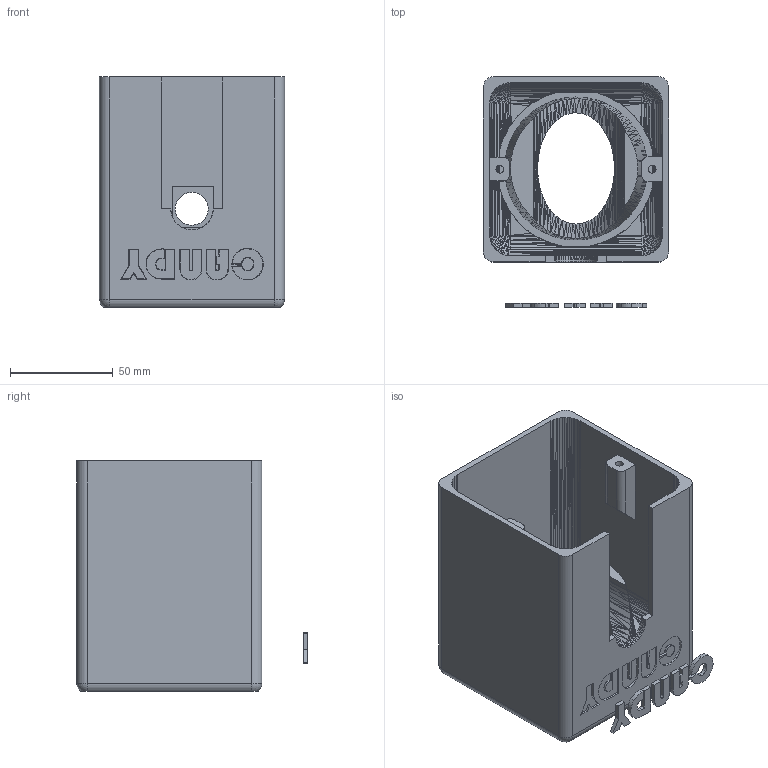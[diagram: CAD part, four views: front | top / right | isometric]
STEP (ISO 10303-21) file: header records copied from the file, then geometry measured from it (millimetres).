
FILE_DESCRIPTION(/* description */ (''),/* implementation_level */ '2;1');
FILE_NAME(/* name */ 'TOP_txt.step',/* time_stamp */ '2022-10-31T08:55:26+03:00',/* author */ (''),/* organization */ (''),/* preprocessor_version */ 'ST-DEVELOPER v19.2',/* originating_system */ 'Autodesk Translation Framework v11.17.0.187',/* authorisation */ '');
FILE_SCHEMA (('AUTOMOTIVE_DESIGN { 1 0 10303 214 3 1 1 }'));
Products named in the file (1): Candy_TOP
Bounding box: 90 x 112 x 111.8 mm (x, y, z)
Volume: 204560.8 mm3; surface area: 89336.5 mm2
Topology: 6 solids, 6 shells, 2589 faces, 4793 edges, 2225 vertices
Faces by surface type: plane 2474, bspline 70, cylinder 41, sphere 4
Full cylindrical faces by diameter (mm): 3.8 x2, 16 x1, 72.5 x1
Entity records: 60523 total; most frequent: CARTESIAN_POINT 11741, DIRECTION 9853, ORIENTED_EDGE 9586, EDGE_CURVE 4793, LINE 4299, VECTOR 4299, AXIS2_PLACEMENT_3D 2777, EDGE_LOOP 2606
